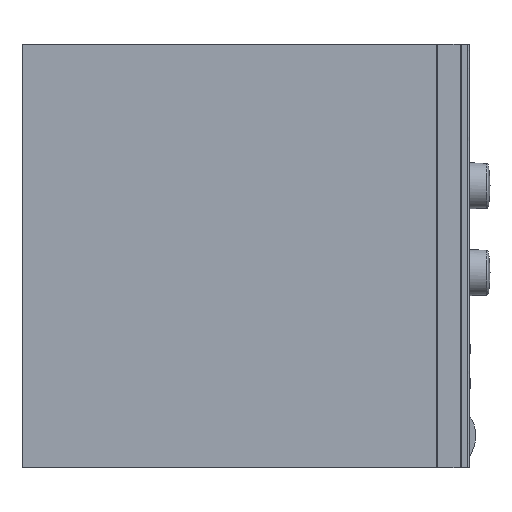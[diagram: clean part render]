
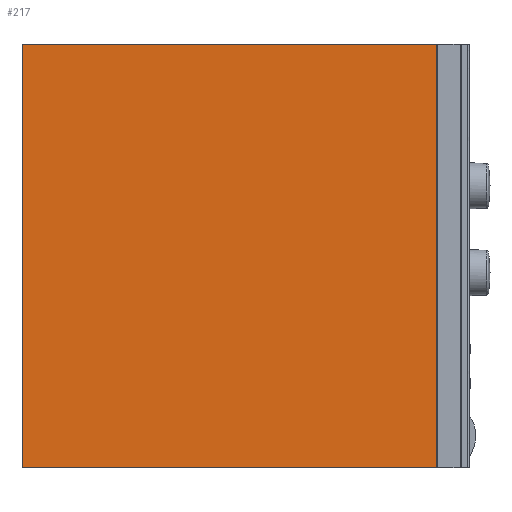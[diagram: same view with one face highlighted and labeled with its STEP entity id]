
A CAD part, front view. The second image highlights one B-rep face of the part: STEP entity #217.
In plain terms, the highlighted free-form (B-spline) face has degree [1, 1] with [2, 2] control points.
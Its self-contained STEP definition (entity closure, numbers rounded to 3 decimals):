
#217=ADVANCED_FACE('',(#320),#1317,.T.);
#320=FACE_OUTER_BOUND('',#424,.T.);
#424=EDGE_LOOP('',(#544,#545,#546,#547));
#544=ORIENTED_EDGE('',*,*,#973,.F.);
#545=ORIENTED_EDGE('',*,*,#966,.F.);
#546=ORIENTED_EDGE('',*,*,#974,.F.);
#547=ORIENTED_EDGE('',*,*,#962,.F.);
#962=EDGE_CURVE('',#1178,#1179,#1395,.T.);
#966=EDGE_CURVE('',#1182,#1183,#1399,.T.);
#973=EDGE_CURVE('',#1183,#1178,#1406,.T.);
#974=EDGE_CURVE('',#1179,#1182,#1407,.T.);
#1178=VERTEX_POINT('',#1674);
#1179=VERTEX_POINT('',#1675);
#1182=VERTEX_POINT('',#1678);
#1183=VERTEX_POINT('',#1679);
#1317=B_SPLINE_SURFACE_WITH_KNOTS('',1,1,((#1640,#1641),(#1642,#1643)),.UNSPECIFIED.,
.F.,.F.,.F.,(2,2),(2,2),(0.333,0.667),(0.33,
0.67),.UNSPECIFIED.);
#1395=B_SPLINE_CURVE_WITH_KNOTS('',1,(#1584,#1585),.UNSPECIFIED.,.F.,.F.,
(2,2),(0.,1.),.UNSPECIFIED.);
#1399=B_SPLINE_CURVE_WITH_KNOTS('',1,(#1592,#1593),.UNSPECIFIED.,.F.,.F.,
(2,2),(0.,1.),.UNSPECIFIED.);
#1406=B_SPLINE_CURVE_WITH_KNOTS('',1,(#1606,#1607),.UNSPECIFIED.,.F.,.F.,
(2,2),(0.,1.),.UNSPECIFIED.);
#1407=B_SPLINE_CURVE_WITH_KNOTS('',1,(#1608,#1609),.UNSPECIFIED.,.F.,.F.,
(2,2),(0.,1.),.UNSPECIFIED.);
#1584=CARTESIAN_POINT('',(-294.385,-260.,43.508));
#1585=CARTESIAN_POINT('',(-294.385,-260.,344.339));
#1592=CARTESIAN_POINT('',(1.115,-260.,344.339));
#1593=CARTESIAN_POINT('',(1.115,-260.,43.508));
#1606=CARTESIAN_POINT('',(1.115,-260.,43.508));
#1607=CARTESIAN_POINT('',(-294.385,-260.,43.508));
#1608=CARTESIAN_POINT('',(-294.385,-260.,344.339));
#1609=CARTESIAN_POINT('',(1.115,-260.,344.339));
#1640=CARTESIAN_POINT('',(-294.385,-260.,43.508));
#1641=CARTESIAN_POINT('',(-294.385,-260.,344.339));
#1642=CARTESIAN_POINT('',(1.115,-260.,43.508));
#1643=CARTESIAN_POINT('',(1.115,-260.,344.339));
#1674=CARTESIAN_POINT('',(-294.385,-260.,43.508));
#1675=CARTESIAN_POINT('',(-294.385,-260.,344.339));
#1678=CARTESIAN_POINT('',(1.115,-260.,344.339));
#1679=CARTESIAN_POINT('',(1.115,-260.,43.508));
